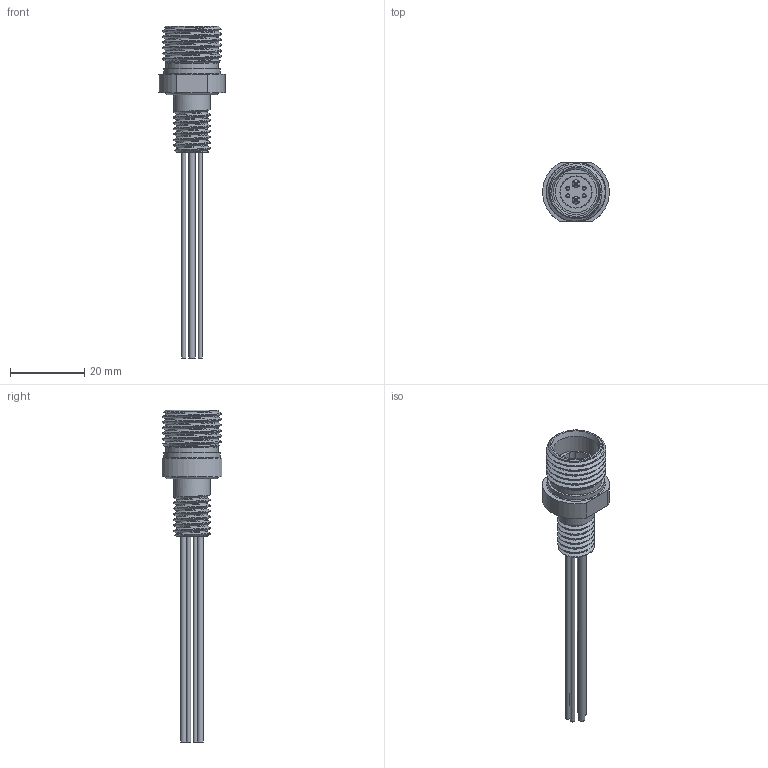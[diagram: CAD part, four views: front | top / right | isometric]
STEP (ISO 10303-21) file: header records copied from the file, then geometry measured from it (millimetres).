
FILE_DESCRIPTION (( 'STEP AP203' ), '1' );
FILE_NAME ('COB-116H0-R1 Bulkhead 6 Pin Hybrid.STEP', '2023-04-27T18:45:29', ( '' ), ( '' ), 'SwSTEP 2.0', 'SolidWorks 2022', '' );
FILE_SCHEMA (( 'CONFIG_CONTROL_DESIGN' ));
Length unit declared in the file: millimetre
Products named in the file (1): COB-116H0-R1 Bulkhead 6 Pin Hybrid
Bounding box: 17.94 x 16 x 89.25 mm (x, y, z)
Volume: 3502.8 mm3; surface area: 4667.9 mm2
Topology: 2 solids, 2 shells, 117 faces, 294 edges, 191 vertices
Faces by surface type: plane 46, cylinder 33, torus 14, cone 14, bspline 6, sphere 4
Full cylindrical faces by diameter (mm): 0.762 x4, 1.13 x4, 1.7 x2, 1.9 x2, 8.4 x1, 9.95 x7, 10.7 x1, 11.608 x1, 12.1 x1, 14 x1, 15.1 x1, 15.2 x1
Entity records: 7254 total; most frequent: CARTESIAN_POINT 4906, DIRECTION 457, ORIENTED_EDGE 432, EDGE_CURVE 216, AXIS2_PLACEMENT_3D 194, VERTEX_POINT 159, EDGE_LOOP 159, FACE_OUTER_BOUND 134
